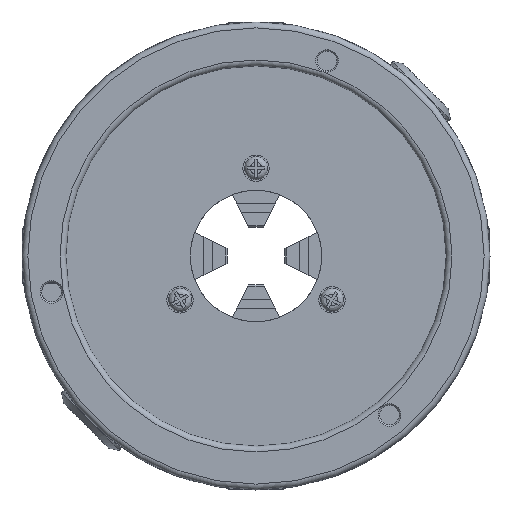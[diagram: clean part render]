
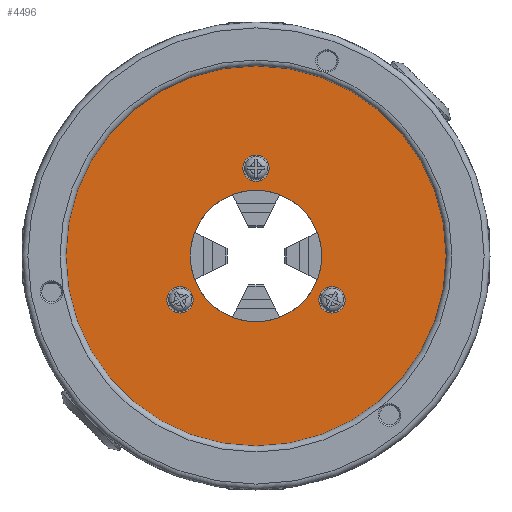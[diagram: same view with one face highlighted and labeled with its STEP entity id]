
A CAD part, front view. The second image highlights one B-rep face of the part: STEP entity #4496.
In plain terms, the highlighted planar face has unit normal (0, -1, 0).
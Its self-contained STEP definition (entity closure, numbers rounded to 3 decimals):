
#74=FACE_BOUND('',#799,.T.);
#75=FACE_BOUND('',#800,.T.);
#76=FACE_BOUND('',#801,.T.);
#77=FACE_BOUND('',#802,.T.);
#196=PLANE('',#4908);
#550=FACE_OUTER_BOUND('',#798,.T.);
#798=EDGE_LOOP('',(#3852));
#799=EDGE_LOOP('',(#3853));
#800=EDGE_LOOP('',(#3854));
#801=EDGE_LOOP('',(#3855));
#802=EDGE_LOOP('',(#3856));
#1843=CIRCLE('',#4692,65.);
#1878=CIRCLE('',#4749,4.5);
#1887=CIRCLE('',#4778,4.5);
#1905=CIRCLE('',#4836,22.5);
#1930=CIRCLE('',#4906,4.5);
#1964=VERTEX_POINT('',#6348);
#2050=VERTEX_POINT('',#6657);
#2088=VERTEX_POINT('',#6865);
#2168=VERTEX_POINT('',#7420);
#2207=VERTEX_POINT('',#7593);
#2413=EDGE_CURVE('',#1964,#1964,#1843,.T.);
#2520=EDGE_CURVE('',#2050,#2050,#1878,.T.);
#2577=EDGE_CURVE('',#2088,#2088,#1887,.T.);
#2698=EDGE_CURVE('',#2168,#2168,#1905,.T.);
#2781=EDGE_CURVE('',#2207,#2207,#1930,.T.);
#3852=ORIENTED_EDGE('',*,*,#2413,.F.);
#3853=ORIENTED_EDGE('',*,*,#2520,.T.);
#3854=ORIENTED_EDGE('',*,*,#2577,.T.);
#3855=ORIENTED_EDGE('',*,*,#2781,.T.);
#3856=ORIENTED_EDGE('',*,*,#2698,.F.);
#4496=ADVANCED_FACE('',(#550,#74,#75,#76,#77),#196,.F.);
#4692=AXIS2_PLACEMENT_3D('',#6350,#5114,#5115);
#4749=AXIS2_PLACEMENT_3D('',#6658,#5286,#5287);
#4778=AXIS2_PLACEMENT_3D('',#6866,#5378,#5379);
#4836=AXIS2_PLACEMENT_3D('',#7421,#5560,#5561);
#4906=AXIS2_PLACEMENT_3D('',#7594,#5755,#5756);
#4908=AXIS2_PLACEMENT_3D('',#7597,#5760,#5761);
#5114=DIRECTION('center_axis',(0.,1.,0.));
#5115=DIRECTION('ref_axis',(-1.,0.,0.));
#5286=DIRECTION('center_axis',(0.,1.,0.));
#5287=DIRECTION('ref_axis',(0.5,0.,-0.866));
#5378=DIRECTION('center_axis',(0.,1.,0.));
#5379=DIRECTION('ref_axis',(0.5,0.,0.866));
#5560=DIRECTION('center_axis',(0.,-1.,0.));
#5561=DIRECTION('ref_axis',(1.,0.,0.));
#5755=DIRECTION('center_axis',(0.,1.,0.));
#5756=DIRECTION('ref_axis',(-1.,0.,0.));
#5760=DIRECTION('center_axis',(0.,1.,0.));
#5761=DIRECTION('ref_axis',(0.,0.,1.));
#6348=CARTESIAN_POINT('',(65.,5.,0.));
#6350=CARTESIAN_POINT('Origin',(0.,5.,0.));
#6657=CARTESIAN_POINT('',(-28.231,5.,-11.103));
#6658=CARTESIAN_POINT('Origin',(-25.981,5.,-15.));
#6865=CARTESIAN_POINT('',(23.731,5.,-18.897));
#6866=CARTESIAN_POINT('Origin',(25.981,5.,-15.));
#7420=CARTESIAN_POINT('',(-22.5,5.,0.));
#7421=CARTESIAN_POINT('Origin',(0.,5.,0.));
#7593=CARTESIAN_POINT('',(4.5,5.,30.));
#7594=CARTESIAN_POINT('Origin',(0.,5.,30.));
#7597=CARTESIAN_POINT('Origin',(0.,5.,0.));
